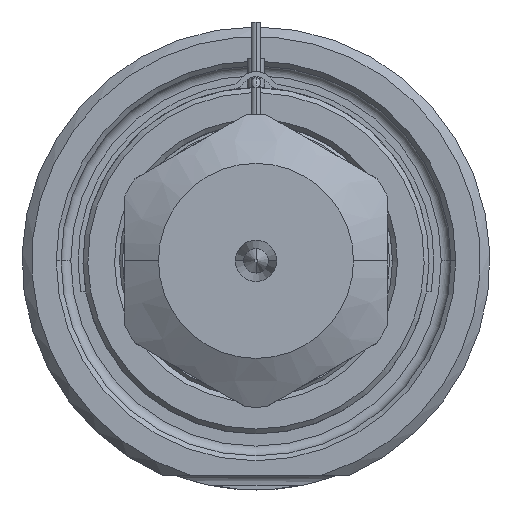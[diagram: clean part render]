
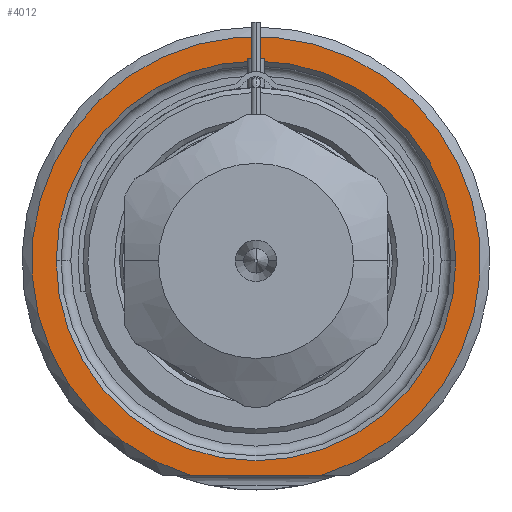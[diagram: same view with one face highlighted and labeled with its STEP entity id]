
A CAD part, front view. The second image highlights one B-rep face of the part: STEP entity #4012.
In plain terms, the highlighted planar face has unit normal (0, -1, 0).
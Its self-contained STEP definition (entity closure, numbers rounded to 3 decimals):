
#1=DIRECTION('',(1.,0.,0.));
#2=VECTOR('',#1,13.416);
#3=CARTESIAN_POINT('',(-6.708,0.,-22.));
#4=LINE('',#3,#2);
#5=CARTESIAN_POINT('',(0.,0.,0.));
#6=DIRECTION('',(0.,1.,0.));
#7=DIRECTION('',(-1.,0.,0.));
#8=AXIS2_PLACEMENT_3D('',#5,#6,#7);
#10=CARTESIAN_POINT('',(0.,0.,0.));
#11=DIRECTION('',(0.,1.,0.));
#12=DIRECTION('',(1.,0.,0.));
#13=AXIS2_PLACEMENT_3D('',#10,#11,#12);
#121=CARTESIAN_POINT('',(0.,0.,0.));
#122=DIRECTION('',(0.,-1.,0.));
#123=DIRECTION('',(0.292,0.,-0.957));
#124=AXIS2_PLACEMENT_3D('',#121,#122,#123);
#3380=CARTESIAN_POINT('',(-20.5,0.,0.));
#3381=CARTESIAN_POINT('',(20.5,0.,0.));
#3382=VERTEX_POINT('',#3380);
#3383=VERTEX_POINT('',#3381);
#3420=CARTESIAN_POINT('',(-6.708,0.,-22.));
#3421=CARTESIAN_POINT('',(6.708,0.,-22.));
#3422=VERTEX_POINT('',#3420);
#3423=VERTEX_POINT('',#3421);
#3995=CARTESIAN_POINT('',(0.,0.,0.));
#3996=DIRECTION('',(0.,-1.,0.));
#3997=DIRECTION('',(1.,0.,0.));
#3998=AXIS2_PLACEMENT_3D('',#3995,#3996,#3997);
#3999=PLANE('',#3998);
#4001=ORIENTED_EDGE('',*,*,#4000,.F.);
#4003=ORIENTED_EDGE('',*,*,#4002,.F.);
#4004=EDGE_LOOP('',(#4001,#4003));
#4005=FACE_OUTER_BOUND('',#4004,.F.);
#4007=ORIENTED_EDGE('',*,*,#4006,.F.);
#4009=ORIENTED_EDGE('',*,*,#4008,.F.);
#4010=EDGE_LOOP('',(#4007,#4009));
#4011=FACE_BOUND('',#4010,.F.);
#4012=ADVANCED_FACE('',(#4005,#4011),#3999,.T.);
#9=CIRCLE('',#8,20.5);
#14=CIRCLE('',#13,20.5);
#125=CIRCLE('',#124,23.);
#4000=EDGE_CURVE('',#3422,#3423,#4,.T.);
#4002=EDGE_CURVE('',#3423,#3422,#125,.T.);
#4006=EDGE_CURVE('',#3382,#3383,#9,.T.);
#4008=EDGE_CURVE('',#3383,#3382,#14,.T.);
